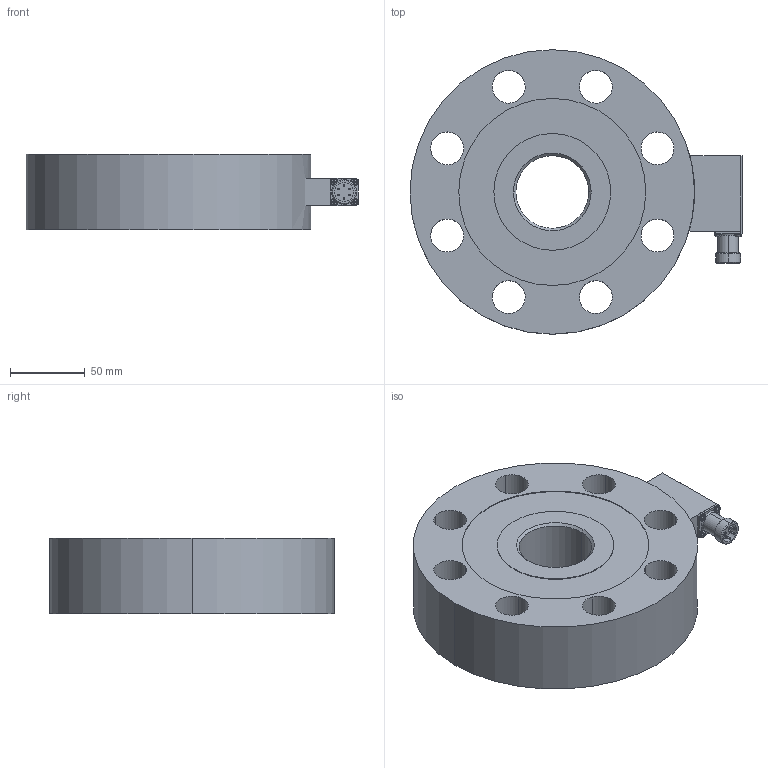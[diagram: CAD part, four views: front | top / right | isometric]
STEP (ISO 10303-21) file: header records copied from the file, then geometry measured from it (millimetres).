
FILE_DESCRIPTION(('STEP AP203'),'1');
FILE_NAME('C:/TPO v2/SharedFS/Outgoing/burster_85075-200_at9o0swuon3wxa2z9rbtsx1d4.stp','2013-08-27T13:53:16',('TraceParts'),('TraceParts S.A.'),'XStep 1.0',' ',' ');
FILE_SCHEMA(('CONFIG_CONTROL_DESIGN'));
Length unit declared in the file: millimetre
Products named in the file (1): 1
Bounding box: 222.25 x 190.5 x 50.8 mm (x, y, z)
Volume: 1203402.2 mm3; surface area: 121131.7 mm2
Topology: 1 solids, 1 shells, 168 faces, 413 edges, 260 vertices
Faces by surface type: plane 86, cylinder 48, torus 18, cone 16
Entity records: 5449 total; most frequent: CARTESIAN_POINT 1366, DIRECTION 867, ORIENTED_EDGE 826, EDGE_CURVE 413, AXIS2_PLACEMENT_3D 345, VERTEX_POINT 260, EDGE_LOOP 199, LINE 177
